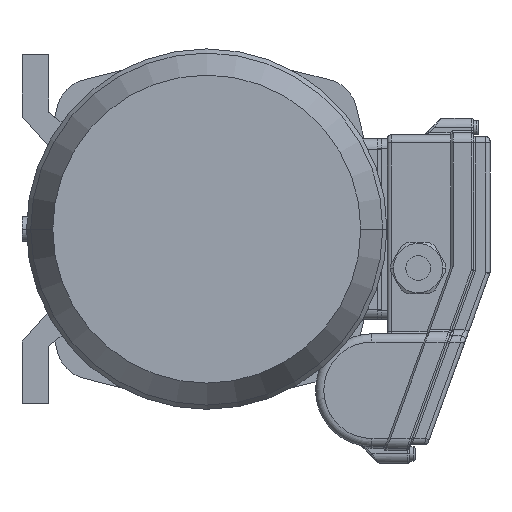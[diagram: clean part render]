
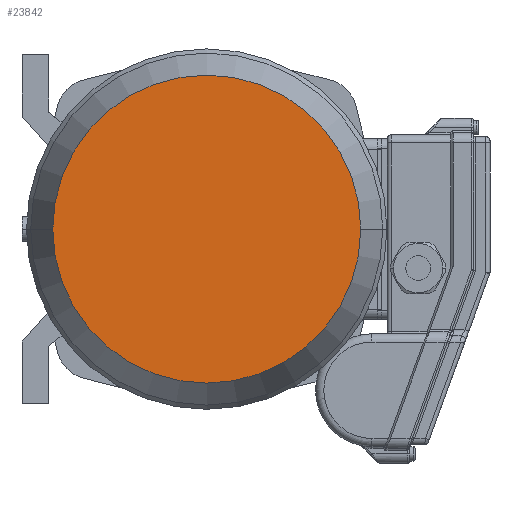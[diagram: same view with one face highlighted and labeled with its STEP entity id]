
A CAD part, front view. The second image highlights one B-rep face of the part: STEP entity #23842.
In plain terms, the highlighted planar face has unit normal (0, -1, 0) as drawn and (1, 0, 0) by its records, which use the part's own axes.
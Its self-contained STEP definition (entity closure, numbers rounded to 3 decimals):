
#17353=CARTESIAN_POINT('',(242.,0.,0.));
#17354=DIRECTION('',(-1.,0.,0.));
#17355=DIRECTION('',(0.,1.,0.));
#17356=AXIS2_PLACEMENT_3D('',#17353,#17354,#17355);
#17361=CARTESIAN_POINT('',(242.,0.,0.));
#17362=DIRECTION('',(1.,0.,0.));
#17363=DIRECTION('',(0.,1.,0.));
#17364=AXIS2_PLACEMENT_3D('',#17361,#17362,#17363);
#18055=CARTESIAN_POINT('',(242.,75.025,0.));
#18057=VERTEX_POINT('',#18055);
#18065=CARTESIAN_POINT('',(242.,-75.025,0.));
#18067=VERTEX_POINT('',#18065);
#23833=CARTESIAN_POINT('',(242.,0.,0.));
#23834=DIRECTION('',(1.,0.,0.));
#23835=DIRECTION('',(0.,-1.,0.));
#23836=AXIS2_PLACEMENT_3D('',#23833,#23834,#23835);
#23837=PLANE('',#23836);
#23838=ORIENTED_EDGE('',*,*,#23815,.T.);
#23839=ORIENTED_EDGE('',*,*,#23826,.F.);
#23840=EDGE_LOOP('',(#23838,#23839));
#23841=FACE_OUTER_BOUND('',#23840,.F.);
#17357=CIRCLE('',#17356,75.025);
#17365=CIRCLE('',#17364,75.025);
#23815=EDGE_CURVE('',#18057,#18067,#17357,.T.);
#23826=EDGE_CURVE('',#18057,#18067,#17365,.T.);
#23842=ADVANCED_FACE('',(#23841),#23837,.T.);
